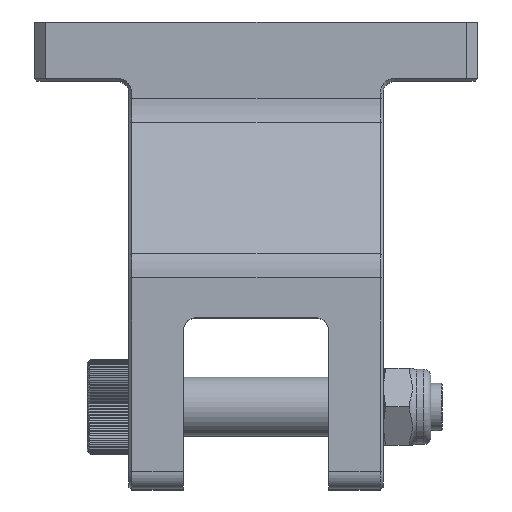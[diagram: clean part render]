
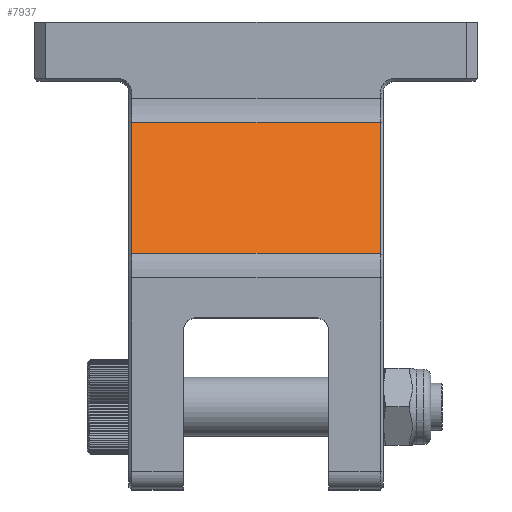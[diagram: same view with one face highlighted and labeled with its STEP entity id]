
A CAD part, top view. The second image highlights one B-rep face of the part: STEP entity #7937.
In plain terms, the highlighted planar face has unit normal (0, 0.411, 0.912).
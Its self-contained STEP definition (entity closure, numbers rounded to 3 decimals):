
#85=DIRECTION('',(0.,-0.912,0.411));
#86=VECTOR('',#85,24.308);
#87=CARTESIAN_POINT('',(58.55,-4.459,-140.667));
#88=LINE('',#87,#86);
#413=DIRECTION('',(1.,0.,0.));
#414=VECTOR('',#413,42.);
#415=CARTESIAN_POINT('',(16.55,-4.459,-140.667));
#416=LINE('',#415,#414);
#425=DIRECTION('',(-1.,0.,0.));
#426=VECTOR('',#425,42.);
#427=CARTESIAN_POINT('',(58.55,-26.622,-130.683));
#428=LINE('',#427,#426);
#1991=DIRECTION('',(0.,0.912,-0.411));
#1992=VECTOR('',#1991,24.308);
#1993=CARTESIAN_POINT('',(16.55,-26.622,-130.683));
#1994=LINE('',#1993,#1992);
#5913=CARTESIAN_POINT('',(58.55,-4.459,-140.667));
#5915=VERTEX_POINT('',#5913);
#5937=CARTESIAN_POINT('',(58.55,-26.622,-130.683));
#5939=VERTEX_POINT('',#5937);
#5947=CARTESIAN_POINT('',(16.55,-4.459,-140.667));
#5948=VERTEX_POINT('',#5947);
#5995=CARTESIAN_POINT('',(16.55,-26.622,-130.683));
#5996=VERTEX_POINT('',#5995);
#7924=CARTESIAN_POINT('',(0.05,-2.5,-141.55));
#7925=DIRECTION('',(0.,0.411,0.912));
#7926=DIRECTION('',(0.,0.912,-0.411));
#7927=AXIS2_PLACEMENT_3D('',#7924,#7925,#7926);
#7928=PLANE('',#7927);
#7930=ORIENTED_EDGE('',*,*,#7929,.T.);
#7932=ORIENTED_EDGE('',*,*,#7931,.T.);
#7933=ORIENTED_EDGE('',*,*,#7908,.T.);
#7934=ORIENTED_EDGE('',*,*,#7285,.T.);
#7935=EDGE_LOOP('',(#7930,#7932,#7933,#7934));
#7936=FACE_OUTER_BOUND('',#7935,.F.);
#7285=EDGE_CURVE('',#5915,#5939,#88,.T.);
#7908=EDGE_CURVE('',#5948,#5915,#416,.T.);
#7929=EDGE_CURVE('',#5939,#5996,#428,.T.);
#7931=EDGE_CURVE('',#5996,#5948,#1994,.T.);
#7937=ADVANCED_FACE('',(#7936),#7928,.T.);
